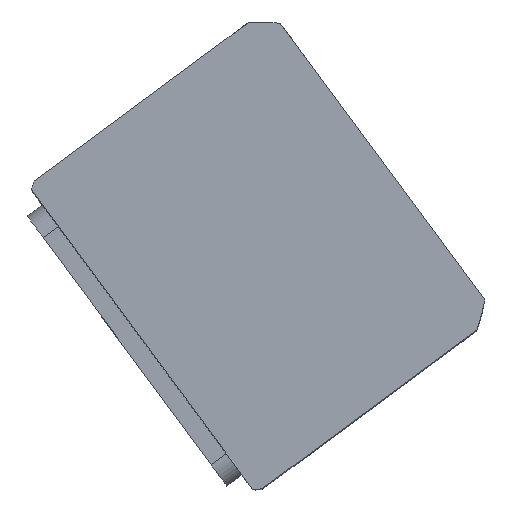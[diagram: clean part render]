
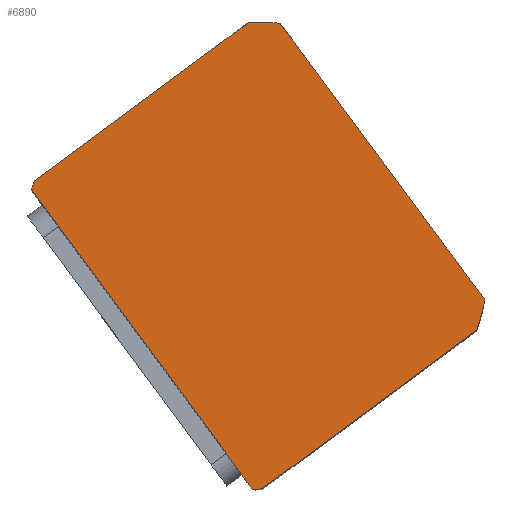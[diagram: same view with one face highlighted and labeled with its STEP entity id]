
A CAD part, top view. The second image highlights one B-rep face of the part: STEP entity #6890.
In plain terms, the highlighted planar face has unit normal (0, 0, 1) as drawn and (0, 0, -1) by its records, which use the part's own axes.
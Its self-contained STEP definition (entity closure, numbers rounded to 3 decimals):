
#212 = AXIS2_PLACEMENT_3D ( 'NONE', #3477, #13338, #4889 ) ;
#274 = PLANE ( 'NONE',  #15303 ) ;
#356 = DIRECTION ( 'NONE',  ( 0., 0., 1. ) ) ;
#628 = EDGE_CURVE ( 'NONE', #16398, #15484, #9435, .T. ) ;
#1265 = VERTEX_POINT ( 'NONE', #13026 ) ;
#1668 = CARTESIAN_POINT ( 'NONE',  ( 0., 2.5, 0. ) ) ;
#1685 = DIRECTION ( 'NONE',  ( 1., 0., 0. ) ) ;
#2109 = ORIENTED_EDGE ( 'NONE', *, *, #4399, .F. ) ;
#2113 = VERTEX_POINT ( 'NONE', #11871 ) ;
#2666 = CARTESIAN_POINT ( 'NONE',  ( -57., -44.5, 0. ) ) ;
#3033 = AXIS2_PLACEMENT_3D ( 'NONE', #8794, #356, #10212 ) ;
#3083 = DIRECTION ( 'NONE',  ( 1., 0., 0. ) ) ;
#3318 = LINE ( 'NONE', #17143, #17876 ) ;
#3395 = CARTESIAN_POINT ( 'NONE',  ( 57., -37.265, 0. ) ) ;
#3477 = CARTESIAN_POINT ( 'NONE',  ( 0., 2.5, 0. ) ) ;
#4085 = DIRECTION ( 'NONE',  ( 1., 0., 0. ) ) ;
#4399 = EDGE_CURVE ( 'NONE', #1265, #16398, #3318, .T. ) ;
#4560 = CIRCLE ( 'NONE', #212, 69.5 ) ;
#4809 = LINE ( 'NONE', #12020, #15637 ) ;
#4889 = DIRECTION ( 'NONE',  ( 1., 0., 0. ) ) ;
#5145 = ORIENTED_EDGE ( 'NONE', *, *, #8780, .F. ) ;
#5166 = VECTOR ( 'NONE', #6611, 1000. ) ;
#5469 = VERTEX_POINT ( 'NONE', #3395 ) ;
#5487 = CARTESIAN_POINT ( 'NONE',  ( 0., 2.5, 0. ) ) ;
#6611 = DIRECTION ( 'NONE',  ( -1., 0., 0. ) ) ;
#6623 = EDGE_CURVE ( 'NONE', #15484, #9452, #11900, .T. ) ;
#6890 = ADVANCED_FACE ( 'NONE', ( #16741 ), #274, .F. ) ;
#6908 = DIRECTION ( 'NONE',  ( 1., 0., 0. ) ) ;
#7238 = EDGE_CURVE ( 'NONE', #5469, #14019, #4809, .T. ) ;
#7882 = DIRECTION ( 'NONE',  ( 0., 1., 0. ) ) ;
#8693 = ORIENTED_EDGE ( 'NONE', *, *, #9914, .F. ) ;
#8780 = EDGE_CURVE ( 'NONE', #13999, #1265, #12995, .T. ) ;
#8794 = CARTESIAN_POINT ( 'NONE',  ( 0., 2.5, 0. ) ) ;
#9435 = CIRCLE ( 'NONE', #9591, 69.5 ) ;
#9452 = VERTEX_POINT ( 'NONE', #12423 ) ;
#9591 = AXIS2_PLACEMENT_3D ( 'NONE', #5487, #15360, #6908 ) ;
#9729 = CIRCLE ( 'NONE', #3033, 69.5 ) ;
#9914 = EDGE_CURVE ( 'NONE', #14019, #2113, #9729, .T. ) ;
#10135 = DIRECTION ( 'NONE',  ( 0., 0., 1. ) ) ;
#10212 = DIRECTION ( 'NONE',  ( 1., 0., 0. ) ) ;
#10376 = AXIS2_PLACEMENT_3D ( 'NONE', #1668, #11542, #3083 ) ;
#10569 = VECTOR ( 'NONE', #4085, 1000. ) ;
#11542 = DIRECTION ( 'NONE',  ( 0., 0., 1. ) ) ;
#11871 = CARTESIAN_POINT ( 'NONE',  ( 55.374, 44.5, 0. ) ) ;
#11900 = LINE ( 'NONE', #2666, #10569 ) ;
#12020 = CARTESIAN_POINT ( 'NONE',  ( 57., 44.5, 0. ) ) ;
#12423 = CARTESIAN_POINT ( 'NONE',  ( 51.198, -44.5, 0. ) ) ;
#12657 = EDGE_CURVE ( 'NONE', #9452, #5469, #4560, .T. ) ;
#12808 = DIRECTION ( 'NONE',  ( 0., -1., 0. ) ) ;
#12995 = CIRCLE ( 'NONE', #10376, 69.5 ) ;
#13026 = CARTESIAN_POINT ( 'NONE',  ( -57., 42.265, 0. ) ) ;
#13200 = CARTESIAN_POINT ( 'NONE',  ( -57., -37.265, 0. ) ) ;
#13225 = ORIENTED_EDGE ( 'NONE', *, *, #12657, .F. ) ;
#13338 = DIRECTION ( 'NONE',  ( 0., 0., 1. ) ) ;
#13804 = ORIENTED_EDGE ( 'NONE', *, *, #14913, .F. ) ;
#13887 = ORIENTED_EDGE ( 'NONE', *, *, #7238, .F. ) ;
#13999 = VERTEX_POINT ( 'NONE', #14189 ) ;
#14019 = VERTEX_POINT ( 'NONE', #17029 ) ;
#14189 = CARTESIAN_POINT ( 'NONE',  ( -55.374, 44.5, 0. ) ) ;
#14601 = CARTESIAN_POINT ( 'NONE',  ( -51.198, -44.5, 0. ) ) ;
#14913 = EDGE_CURVE ( 'NONE', #2113, #13999, #16448, .T. ) ;
#15057 = CARTESIAN_POINT ( 'NONE',  ( -57., 44.5, 0. ) ) ;
#15303 = AXIS2_PLACEMENT_3D ( 'NONE', #17048, #10135, #1685 ) ;
#15360 = DIRECTION ( 'NONE',  ( 0., 0., 1. ) ) ;
#15484 = VERTEX_POINT ( 'NONE', #14601 ) ;
#15637 = VECTOR ( 'NONE', #7882, 1000. ) ;
#16313 = EDGE_LOOP ( 'NONE', ( #8693, #13887, #13225, #16742, #17758, #2109, #5145, #13804 ) ) ;
#16398 = VERTEX_POINT ( 'NONE', #13200 ) ;
#16448 = LINE ( 'NONE', #15057, #5166 ) ;
#16741 = FACE_OUTER_BOUND ( 'NONE', #16313, .T. ) ;
#16742 = ORIENTED_EDGE ( 'NONE', *, *, #6623, .F. ) ;
#17029 = CARTESIAN_POINT ( 'NONE',  ( 57., 42.265, 0. ) ) ;
#17048 = CARTESIAN_POINT ( 'NONE',  ( 0., 0., 0. ) ) ;
#17143 = CARTESIAN_POINT ( 'NONE',  ( -57., 44.5, 0. ) ) ;
#17758 = ORIENTED_EDGE ( 'NONE', *, *, #628, .F. ) ;
#17876 = VECTOR ( 'NONE', #12808, 1000. ) ;
